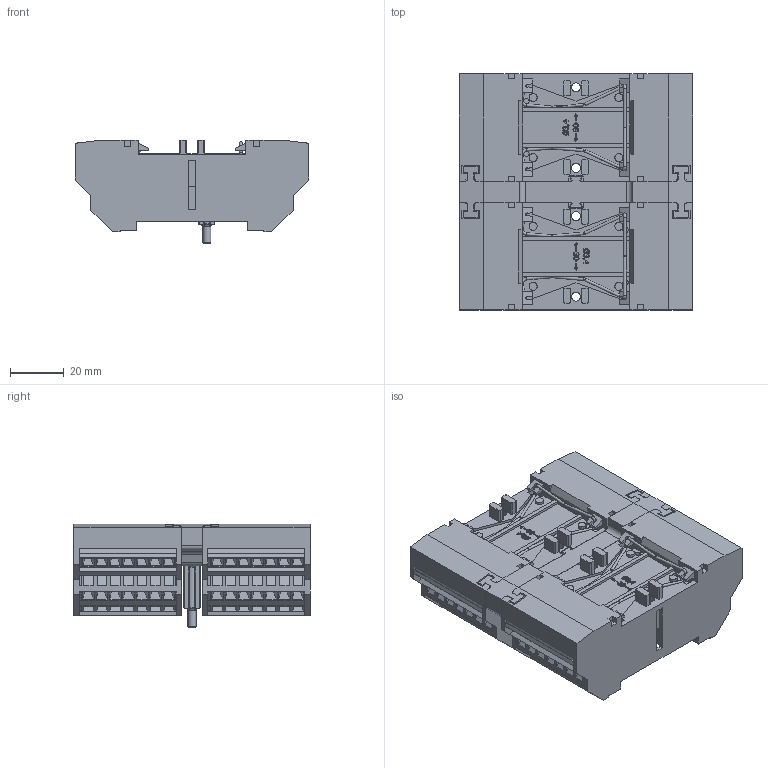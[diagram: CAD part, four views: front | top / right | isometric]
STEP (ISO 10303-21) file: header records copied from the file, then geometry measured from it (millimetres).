
FILE_DESCRIPTION((''),'2;1');
FILE_NAME('I:\TI\Bibliotheek\Inventor\Relais voeten\V99\V99.stp','2012-01-18T10:07:24',('a.vos'),(''),'Autodesk Inventor 2012','Autodesk Inventor 2012','');
FILE_SCHEMA(('CONFIG_CONTROL_DESIGN'));
Length unit declared in the file: millimetre
Products named in the file (1): V99
Bounding box: 87 x 88 x 38.5 mm (x, y, z)
Volume: 173542.2 mm3; surface area: 44320.3 mm2
Topology: 1 solids, 107 shells, 5721 faces, 15659 edges, 10347 vertices
Faces by surface type: plane 4510, bspline 681, cylinder 494, torus 36
Full cylindrical faces by diameter (mm): 1 x24, 2 x4, 3 x9, 3.4 x8
Entity records: 188107 total; most frequent: CARTESIAN_POINT 42037, ORIENTED_EDGE 31208, DIRECTION 25315, EDGE_CURVE 15604, VECTOR 13139, LINE 13139, VERTEX_POINT 10325, AXIS2_PLACEMENT_3D 6088
